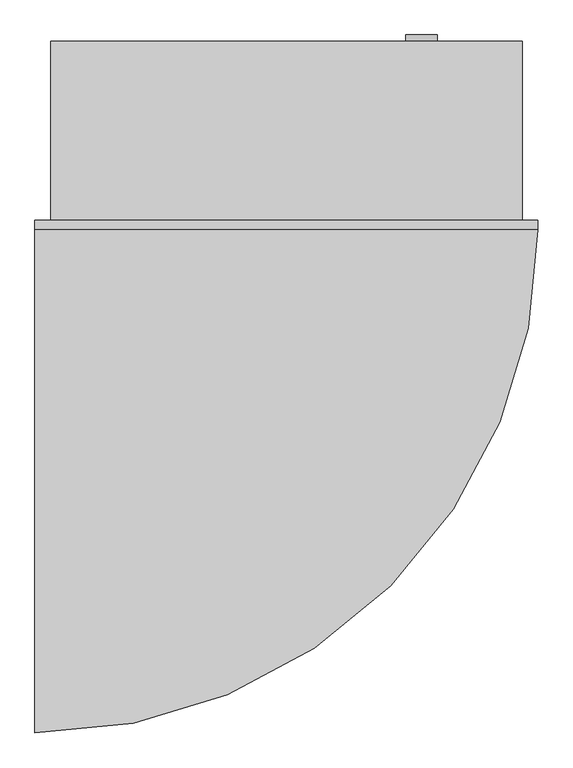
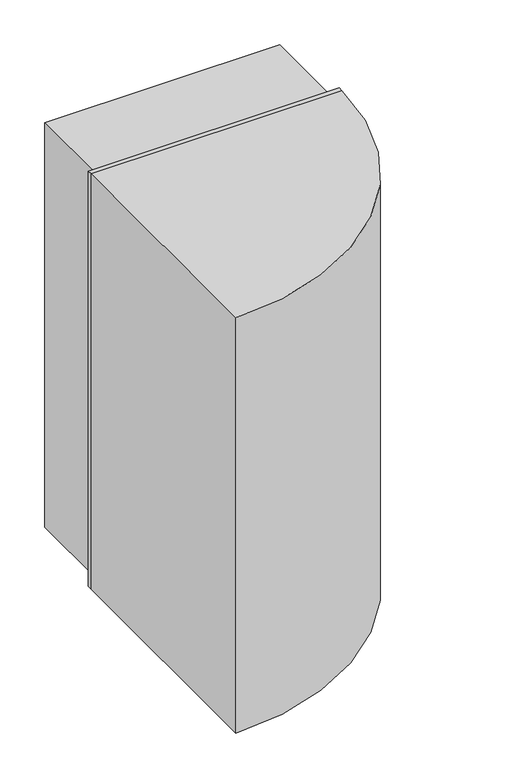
"""IFC4 building model written with IfcOpenShell, lengths in millimetres: fire suppression terminal geometry, 05020_屋内消火栓 : 易操作性1号."""

from ifc_helpers import new_model, si_unit, point, frame, frame_2d, origin, origin_with_axes, place, context, project, spatial, polyline, circle_curve, trimmed, segment, composite_curve, outline, extrude, source, transform, mapped, element, save


def fire_suppression_terminal_a33273fa(model_context):
    return source(origin(), model_context, "Body", "SweptSolid", [
        extrude(outline(composite_curve([segment(polyline([(-400.0, -815.0), (-400.0, -15.0), (400.0, -15.0)]), True, "CONTINUOUS"), segment(trimmed(circle_curve(frame_2d((-400.0, -15.0)), 800.0), [point((400.0, -15.0))], [point((-400.0, -815.0))], False, "CARTESIAN"), True, "CONTINUOUS")], self_intersect=False)), origin_with_axes(), (0.0, 0.0, 1.0), 1400.0),
        extrude(outline(composite_curve([segment(trimmed(circle_curve(frame_2d((975.0, 215.0)), 25.0), [point((975.0, 190.0))], [point((975.0, 240.0))], False, "CARTESIAN"), True, "CONTINUOUS"), segment(trimmed(circle_curve(frame_2d((975.0, 215.0)), 25.0), [point((975.0, 240.0))], [point((975.0, 190.0))], False, "CARTESIAN"), True, "CONTINUOUS")], self_intersect=False)), frame((0.0, 265.0, 0.0), z_axis=(0.0, 1.0, 0.0), x_axis=(0.0, 0.0, 1.0)), (0.0, 0.0, 1.0), 30.0),
        extrude(outline(polyline([(-375.0, 285.0), (375.0, 285.0), (375.0, 0.0), (-375.0, 0.0), (-375.0, 285.0)])), frame((0.0, 0.0, 18.5), z_axis=(0.0, 0.0, 1.0), x_axis=(1.0, 0.0, 0.0)), (0.0, 0.0, 1.0), 1363.0),
        extrude(outline(polyline([(400.0, 0.0), (400.0, -15.0), (-400.0, -15.0), (-400.0, 0.0), (400.0, 0.0)])), origin_with_axes(), (0.0, 0.0, 1.0), 1400.0),
    ])


if __name__ == "__main__":
    model = new_model("IFC4")
    model_context = context("Model", 3, world=origin())
    ifc_project = project(units=[si_unit("LENGTHUNIT", "METRE", prefix="MILLI")], contexts=[model_context])
    site = spatial("IfcSite", under=ifc_project)
    building = spatial("IfcBuilding", under=site)
    placement = place(None, origin())
    fire_suppression_terminal_shape = fire_suppression_terminal_a33273fa(model_context)
    element("IfcFireSuppressionTerminal", 1, ObjectType="05020_屋内消火栓 : 易操作性1号", at=placement, inside=building, context=model_context, shape_type="MappedRepresentation", body=[
        mapped(fire_suppression_terminal_shape, transform((0.0, 0.0, 0.0), x_axis=(1.0, 0.0, 0.0), y_axis=(0.0, 1.0, 0.0), z_axis=(0.0, 0.0, 1.0))),
    ])
    save(model, "model.ifc")
